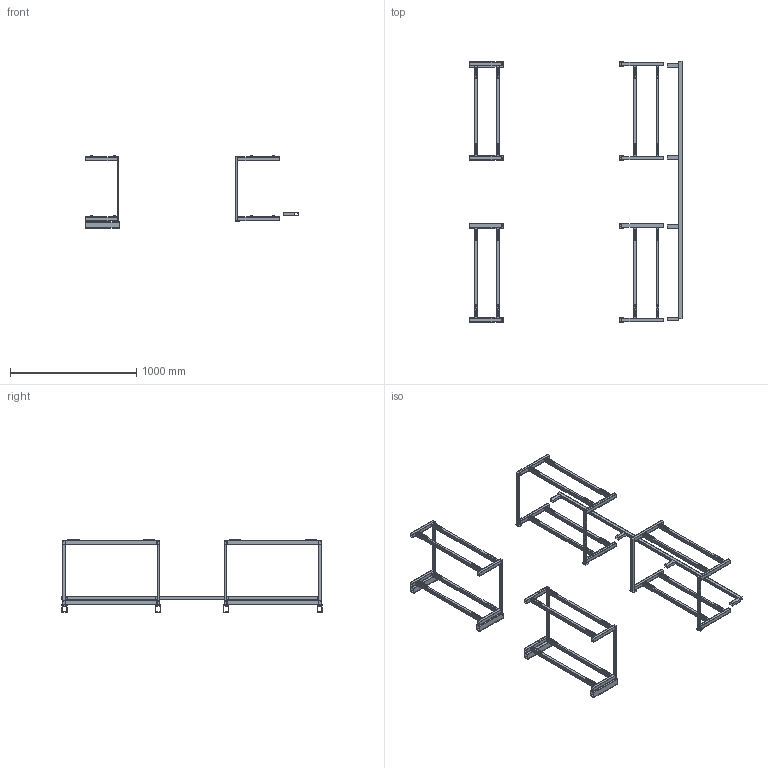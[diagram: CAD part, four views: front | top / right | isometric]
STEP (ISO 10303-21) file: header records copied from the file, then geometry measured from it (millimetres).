
FILE_DESCRIPTION(('Open CASCADE Model'),'2;1');
FILE_NAME('Open CASCADE Shape Model','2026-11-05T14:29:03',('Author'),( 'Open CASCADE'),'Open CASCADE STEP processor 7.9','Open CASCADE 7.9' ,'Unknown');
FILE_SCHEMA(('AUTOMOTIVE_DESIGN { 1 0 10303 214 1 1 1 1 }'));
Length unit declared in the file: millimetre
Products named in the file (151): D02_DAMPER_SUPPORTS; D02_SUPPORTS; REAR_SKID_CROSS_TIE; AF_LO_BASE_TIE; AF_LO_POST; AFP_LO_SIDE_ARM; AFR_LO_SIDE_ARM; AF_HI_BASE_TIE; AF_HI_POST; AFP_HI_SIDE_ARM; AFR_HI_SIDE_ARM; AFP_INNER_LO_SHOE; AFP_INNER_LO_M4_1; AFP_INNER_LO_M4_2; AFP_INNER_HI_SHOE; AFP_INNER_HI_M4_1; AFP_INNER_HI_M4_2; AFP_INNER_BEAM; AFP_OUTER_LO_SHOE; AFP_OUTER_LO_M4_1; AFP_OUTER_LO_M4_2; AFP_OUTER_HI_SHOE; AFP_OUTER_HI_M4_1; AFP_OUTER_HI_M4_2; AFP_OUTER_BEAM; AFR_INNER_LO_SHOE; AFR_INNER_LO_M4_1; AFR_INNER_LO_M4_2; AFR_INNER_HI_SHOE; AFR_INNER_HI_M4_1; AFR_INNER_HI_M4_2; AFR_INNER_BEAM; AFR_OUTER_LO_SHOE; AFR_OUTER_LO_M4_1; AFR_OUTER_LO_M4_2; AFR_OUTER_HI_SHOE; AFR_OUTER_HI_M4_1; AFR_OUTER_HI_M4_2; AFR_OUTER_BEAM; AR_LO_FOOT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
Assembly tree (150 placements, depth 3):
  D02_DAMPER_SUPPORTS
    D02_SUPPORTS
      REAR_SKID_CROSS_TIE
      AF_LO_BASE_TIE
      AF_LO_POST
      AFP_LO_SIDE_ARM
      AFR_LO_SIDE_ARM
      AF_HI_BASE_TIE
      AF_HI_POST
      AFP_HI_SIDE_ARM
      AFR_HI_SIDE_ARM
      AFP_INNER_LO_SHOE
      AFP_INNER_LO_M4_1
      AFP_INNER_LO_M4_2
      AFP_INNER_HI_SHOE
      AFP_INNER_HI_M4_1
      AFP_INNER_HI_M4_2
      AFP_INNER_BEAM
      AFP_OUTER_LO_SHOE
      AFP_OUTER_LO_M4_1
      AFP_OUTER_LO_M4_2
      AFP_OUTER_HI_SHOE
      AFP_OUTER_HI_M4_1
      AFP_OUTER_HI_M4_2
      AFP_OUTER_BEAM
      AFR_INNER_LO_SHOE
      AFR_INNER_LO_M4_1
      AFR_INNER_LO_M4_2
      AFR_INNER_HI_SHOE
      AFR_INNER_HI_M4_1
      AFR_INNER_HI_M4_2
      AFR_INNER_BEAM
      AFR_OUTER_LO_SHOE
      AFR_OUTER_LO_M4_1
      AFR_OUTER_LO_M4_2
      AFR_OUTER_HI_SHOE
      AFR_OUTER_HI_M4_1
      AFR_OUTER_HI_M4_2
      AFR_OUTER_BEAM
      AR_LO_FOOT
      AR_LO_POST
      AR_LO_REAR_TIE
      ARP_LO_SIDE_ARM
      ARR_LO_SIDE_ARM
      AR_HI_FOOT
      AR_HI_POST
      AR_HI_REAR_TIE
      ARP_HI_SIDE_ARM
      ARR_HI_SIDE_ARM
      ARP_INNER_LO_SHOE
      ARP_INNER_LO_M4_1
      ARP_INNER_LO_M4_2
      ARP_INNER_HI_SHOE
      ARP_INNER_HI_M4_1
      ARP_INNER_HI_M4_2
      ARP_INNER_BEAM
      ARP_OUTER_LO_SHOE
      ARP_OUTER_LO_M4_1
      ARP_OUTER_LO_M4_2
      ARP_OUTER_HI_SHOE
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Bounding box: 1683 x 2068.4 x 575 mm (x, y, z)
Volume: 11445183.7 mm3; surface area: 3469375.6 mm2
Topology: 149 solids, 149 shells, 1858 faces, 3816 edges, 2544 vertices
Faces by surface type: plane 1538, cylinder 320
Full cylindrical faces by diameter (mm): 4 x128, 4.5 x64, 7 x64, 7.4 x64
Entity records: 100883 total; most frequent: CARTESIAN_POINT 17169, DIRECTION 14938, LINE 9000, VECTOR 9000, ORIENTED_EDGE 7632, PCURVE 7632, DEFINITIONAL_REPRESENTATION 7632, EDGE_CURVE 3816
